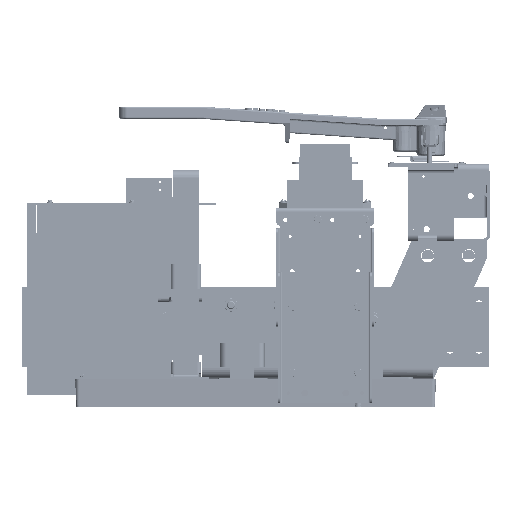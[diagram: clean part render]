
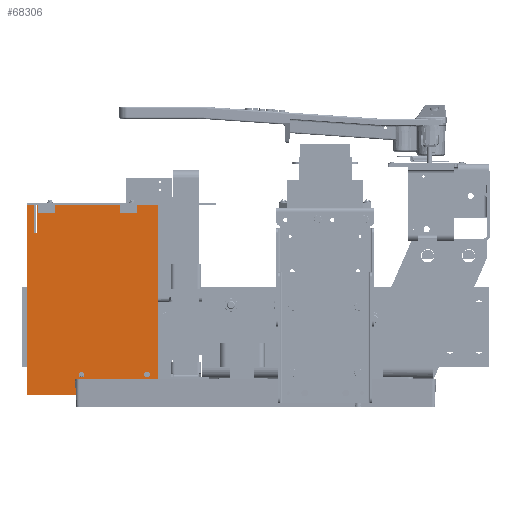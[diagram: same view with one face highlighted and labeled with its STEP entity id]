
A CAD part, left-side view. The second image highlights one B-rep face of the part: STEP entity #68306.
In plain terms, the highlighted planar face has unit normal (-1, 0, 0) as drawn and (0, 0, -1) by its records, which use the part's own axes.
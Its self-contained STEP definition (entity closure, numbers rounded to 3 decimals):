
#3631=FACE_BOUND('',#14497,.T.);
#3632=FACE_BOUND('',#14498,.T.);
#3633=FACE_BOUND('',#14499,.T.);
#3634=FACE_BOUND('',#14500,.T.);
#5616=CIRCLE('',#75281,0.097);
#5618=CIRCLE('',#75284,0.097);
#5620=CIRCLE('',#75287,0.097);
#5622=CIRCLE('',#75290,0.097);
#10195=FACE_OUTER_BOUND('',#14496,.T.);
#14496=EDGE_LOOP('',(#55398,#55399,#55400,#55401,#55402,#55403,#55404,#55405,
#55406,#55407,#55408,#55409));
#14497=EDGE_LOOP('',(#55410));
#14498=EDGE_LOOP('',(#55411));
#14499=EDGE_LOOP('',(#55412));
#14500=EDGE_LOOP('',(#55413));
#20005=LINE('',#115468,#25908);
#20009=LINE('',#115476,#25912);
#20012=LINE('',#115482,#25915);
#20015=LINE('',#115488,#25918);
#20018=LINE('',#115494,#25921);
#20021=LINE('',#115500,#25924);
#20024=LINE('',#115506,#25927);
#20027=LINE('',#115512,#25930);
#20030=LINE('',#115518,#25933);
#20033=LINE('',#115524,#25936);
#20036=LINE('',#115530,#25939);
#20039=LINE('',#115535,#25942);
#25908=VECTOR('',#89187,0.394);
#25912=VECTOR('',#89193,0.394);
#25915=VECTOR('',#89198,0.394);
#25918=VECTOR('',#89203,0.394);
#25921=VECTOR('',#89208,0.394);
#25924=VECTOR('',#89213,0.394);
#25927=VECTOR('',#89218,0.394);
#25930=VECTOR('',#89223,0.394);
#25933=VECTOR('',#89228,0.394);
#25936=VECTOR('',#89233,0.394);
#25939=VECTOR('',#89238,0.394);
#25942=VECTOR('',#89243,0.394);
#32002=VERTEX_POINT('',#115442);
#32004=VERTEX_POINT('',#115448);
#32006=VERTEX_POINT('',#115454);
#32008=VERTEX_POINT('',#115460);
#32010=VERTEX_POINT('',#115466);
#32011=VERTEX_POINT('',#115467);
#32014=VERTEX_POINT('',#115475);
#32016=VERTEX_POINT('',#115481);
#32018=VERTEX_POINT('',#115487);
#32020=VERTEX_POINT('',#115493);
#32022=VERTEX_POINT('',#115499);
#32024=VERTEX_POINT('',#115505);
#32026=VERTEX_POINT('',#115511);
#32028=VERTEX_POINT('',#115517);
#32030=VERTEX_POINT('',#115523);
#32032=VERTEX_POINT('',#115529);
#40176=EDGE_CURVE('',#32002,#32002,#5616,.T.);
#40179=EDGE_CURVE('',#32004,#32004,#5618,.T.);
#40182=EDGE_CURVE('',#32006,#32006,#5620,.T.);
#40185=EDGE_CURVE('',#32008,#32008,#5622,.T.);
#40188=EDGE_CURVE('',#32010,#32011,#20005,.T.);
#40192=EDGE_CURVE('',#32014,#32010,#20009,.T.);
#40195=EDGE_CURVE('',#32016,#32014,#20012,.T.);
#40198=EDGE_CURVE('',#32018,#32016,#20015,.T.);
#40201=EDGE_CURVE('',#32020,#32018,#20018,.T.);
#40204=EDGE_CURVE('',#32022,#32020,#20021,.T.);
#40207=EDGE_CURVE('',#32024,#32022,#20024,.T.);
#40210=EDGE_CURVE('',#32026,#32024,#20027,.T.);
#40213=EDGE_CURVE('',#32028,#32026,#20030,.T.);
#40216=EDGE_CURVE('',#32030,#32028,#20033,.T.);
#40219=EDGE_CURVE('',#32032,#32030,#20036,.T.);
#40222=EDGE_CURVE('',#32011,#32032,#20039,.T.);
#55398=ORIENTED_EDGE('',*,*,#40222,.F.);
#55399=ORIENTED_EDGE('',*,*,#40188,.F.);
#55400=ORIENTED_EDGE('',*,*,#40192,.F.);
#55401=ORIENTED_EDGE('',*,*,#40195,.F.);
#55402=ORIENTED_EDGE('',*,*,#40198,.F.);
#55403=ORIENTED_EDGE('',*,*,#40201,.F.);
#55404=ORIENTED_EDGE('',*,*,#40204,.F.);
#55405=ORIENTED_EDGE('',*,*,#40207,.F.);
#55406=ORIENTED_EDGE('',*,*,#40210,.F.);
#55407=ORIENTED_EDGE('',*,*,#40213,.F.);
#55408=ORIENTED_EDGE('',*,*,#40216,.F.);
#55409=ORIENTED_EDGE('',*,*,#40219,.F.);
#55410=ORIENTED_EDGE('',*,*,#40176,.T.);
#55411=ORIENTED_EDGE('',*,*,#40179,.T.);
#55412=ORIENTED_EDGE('',*,*,#40182,.T.);
#55413=ORIENTED_EDGE('',*,*,#40185,.T.);
#65303=PLANE('',#75305);
#68306=ADVANCED_FACE('',(#10195,#3631,#3632,#3633,#3634),#65303,.F.);
#75281=AXIS2_PLACEMENT_3D('',#115443,#89159,#89160);
#75284=AXIS2_PLACEMENT_3D('',#115449,#89166,#89167);
#75287=AXIS2_PLACEMENT_3D('',#115455,#89173,#89174);
#75290=AXIS2_PLACEMENT_3D('',#115461,#89180,#89181);
#75305=AXIS2_PLACEMENT_3D('',#115538,#89247,#89248);
#89159=DIRECTION('center_axis',(0.,0.,1.));
#89160=DIRECTION('ref_axis',(-1.,0.,0.));
#89166=DIRECTION('center_axis',(0.,0.,1.));
#89167=DIRECTION('ref_axis',(-1.,0.,0.));
#89173=DIRECTION('center_axis',(0.,0.,1.));
#89174=DIRECTION('ref_axis',(-1.,0.,0.));
#89180=DIRECTION('center_axis',(0.,0.,1.));
#89181=DIRECTION('ref_axis',(-1.,0.,0.));
#89187=DIRECTION('',(1.,0.,0.));
#89193=DIRECTION('',(0.,1.,0.));
#89198=DIRECTION('',(1.,0.,0.));
#89203=DIRECTION('',(0.,-1.,0.));
#89208=DIRECTION('',(-1.,0.,0.));
#89213=DIRECTION('',(0.,-1.,0.));
#89218=DIRECTION('',(1.,0.,0.));
#89223=DIRECTION('',(0.,-1.,0.));
#89228=DIRECTION('',(-1.,0.,0.));
#89233=DIRECTION('',(0.,1.,0.));
#89238=DIRECTION('',(1.,0.,0.));
#89243=DIRECTION('',(0.,-1.,0.));
#89247=DIRECTION('center_axis',(0.,0.,1.));
#89248=DIRECTION('ref_axis',(1.,0.,0.));
#115442=CARTESIAN_POINT('',(0.347,2.,0.));
#115443=CARTESIAN_POINT('Origin',(0.25,2.,0.));
#115448=CARTESIAN_POINT('',(0.347,7.,0.));
#115449=CARTESIAN_POINT('Origin',(0.25,7.,0.));
#115454=CARTESIAN_POINT('',(10.472,0.688,0.));
#115455=CARTESIAN_POINT('Origin',(10.375,0.688,0.));
#115460=CARTESIAN_POINT('',(10.472,4.688,0.));
#115461=CARTESIAN_POINT('Origin',(10.375,4.688,0.));
#115466=CARTESIAN_POINT('',(10.625,5.094,0.));
#115467=CARTESIAN_POINT('',(11.156,5.094,0.));
#115468=CARTESIAN_POINT('',(10.625,5.094,0.));
#115475=CARTESIAN_POINT('',(10.625,0.,0.));
#115476=CARTESIAN_POINT('',(10.625,0.,0.));
#115481=CARTESIAN_POINT('',(0.,0.,0.));
#115482=CARTESIAN_POINT('',(0.,0.,0.));
#115487=CARTESIAN_POINT('',(0.,7.422,0.));
#115488=CARTESIAN_POINT('',(0.,7.422,0.));
#115493=CARTESIAN_POINT('',(1.75,7.422,0.));
#115494=CARTESIAN_POINT('',(1.75,7.422,0.));
#115499=CARTESIAN_POINT('',(1.75,7.578,0.));
#115500=CARTESIAN_POINT('',(1.75,7.578,0.));
#115505=CARTESIAN_POINT('',(0.,7.578,0.));
#115506=CARTESIAN_POINT('',(0.,7.578,0.));
#115511=CARTESIAN_POINT('',(0.,8.,0.));
#115512=CARTESIAN_POINT('',(0.,8.,0.));
#115517=CARTESIAN_POINT('',(11.625,8.,0.));
#115518=CARTESIAN_POINT('',(11.625,8.,0.));
#115523=CARTESIAN_POINT('',(11.625,4.719,0.));
#115524=CARTESIAN_POINT('',(11.625,4.719,0.));
#115529=CARTESIAN_POINT('',(11.156,4.719,0.));
#115530=CARTESIAN_POINT('',(11.156,4.719,0.));
#115535=CARTESIAN_POINT('',(11.156,5.094,0.));
#115538=CARTESIAN_POINT('Origin',(5.401,4.41,0.));
